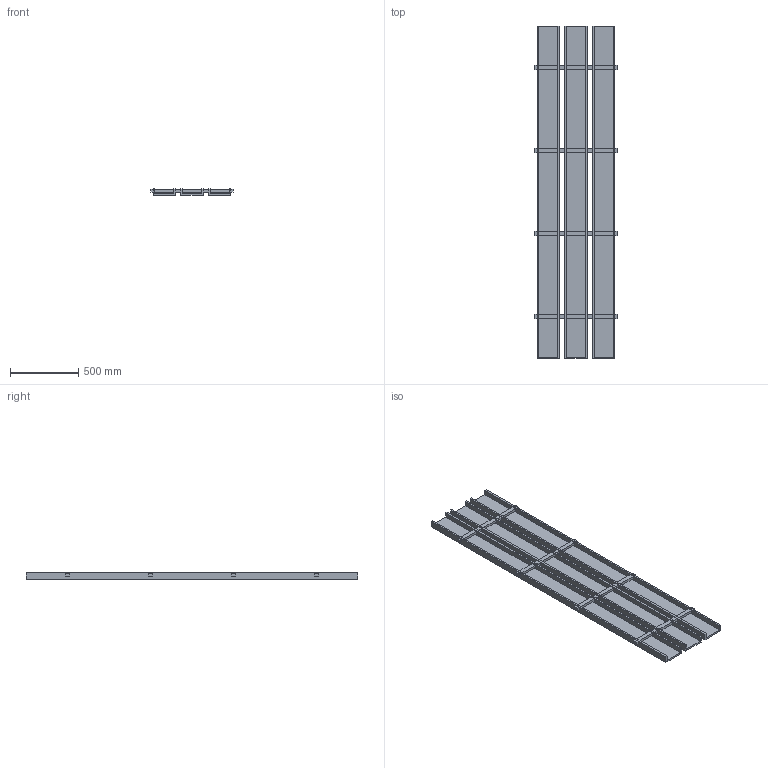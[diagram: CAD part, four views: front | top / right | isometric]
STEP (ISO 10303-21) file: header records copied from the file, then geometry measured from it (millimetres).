
FILE_DESCRIPTION(/* description */ (''),/* implementation_level */ '2;1');
FILE_NAME(/* name */ 'PET GRILLA_6.5x2_8ft',/* time_stamp */ '2024-10-15T14:22:35-05:00',/* author */ (''),/* organization */ (''),/* preprocessor_version */ 'ST-DEVELOPER v19.2',/* originating_system */ 'Rhino 8.4',/* authorisation */ '');
FILE_SCHEMA (('CONFIG_CONTROL_DESIGN'));
Length unit declared in the file: inch
Products named in the file (1): Document
Bounding box: 603.25 x 2438.4 x 50.8 mm (x, y, z)
Volume: 23692622 mm3; surface area: 3924508.3 mm2
Topology: 1 solids, 1 shells, 150 faces, 408 edges, 272 vertices
Faces by surface type: plane 150
Entity records: 4234 total; most frequent: CARTESIAN_POINT 1240, ORIENTED_EDGE 816, EDGE_CURVE 408, B_SPLINE_CURVE_WITH_KNOTS 408, VERTEX_POINT 272, EDGE_LOOP 198, DIRECTION 154, AXIS2_PLACEMENT_3D 152
